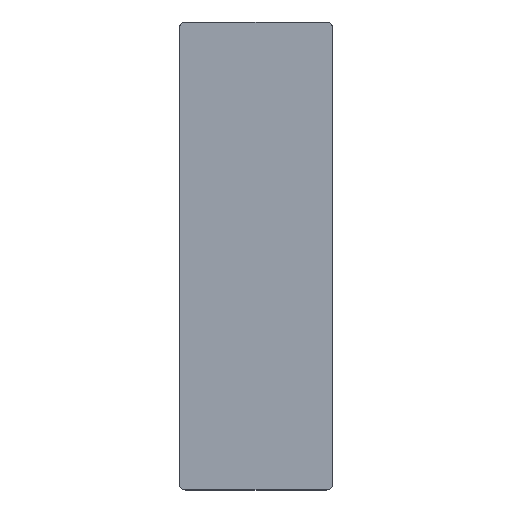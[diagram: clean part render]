
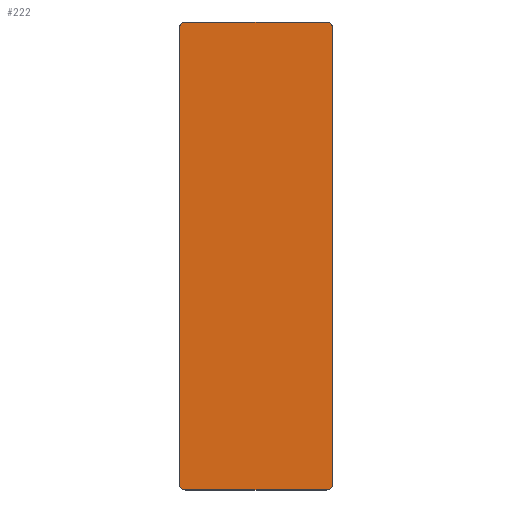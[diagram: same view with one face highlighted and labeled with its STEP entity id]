
A CAD part, top view. The second image highlights one B-rep face of the part: STEP entity #222.
In plain terms, the highlighted planar face has unit normal (0, 0, 1).
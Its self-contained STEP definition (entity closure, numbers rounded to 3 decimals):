
#126=AXIS2_PLACEMENT_3D('Circle Axis2P3D',#124,#125,$) ;
#146=AXIS2_PLACEMENT_3D('Plane Axis2P3D',#143,#144,#145) ;
#183=AXIS2_PLACEMENT_3D('Circle Axis2P3D',#181,#182,$) ;
#50=CARTESIAN_POINT('Vertex',(2423.66,1037.5,620.431)) ;
#53=CARTESIAN_POINT('Line Origine',(2423.66,0.,620.431)) ;
#57=CARTESIAN_POINT('Vertex',(2423.66,-1037.5,620.431)) ;
#121=CARTESIAN_POINT('Vertex',(2395.16,1066.,620.431)) ;
#124=CARTESIAN_POINT('Axis2P3D Location',(2395.16,1037.5,620.431)) ;
#143=CARTESIAN_POINT('Axis2P3D Location',(2453.66,0.,620.431)) ;
#148=CARTESIAN_POINT('Line Origine',(2073.978,-1066.,620.431)) ;
#152=CARTESIAN_POINT('Vertex',(2395.16,-1066.,620.431)) ;
#154=CARTESIAN_POINT('Vertex',(1752.796,-1066.,620.431)) ;
#158=CARTESIAN_POINT('Control Point',(2423.66,-1037.5,620.431)) ;
#159=CARTESIAN_POINT('Control Point',(2423.66,-1040.115,620.431)) ;
#160=CARTESIAN_POINT('Control Point',(2423.36,-1042.73,620.431)) ;
#161=CARTESIAN_POINT('Control Point',(2422.76,-1045.3,620.431)) ;
#162=CARTESIAN_POINT('Control Point',(2420.981,-1050.255,620.431)) ;
#163=CARTESIAN_POINT('Control Point',(2418.127,-1054.679,620.431)) ;
#164=CARTESIAN_POINT('Control Point',(2416.45,-1056.717,620.431)) ;
#165=CARTESIAN_POINT('Control Point',(2412.661,-1060.372,620.431)) ;
#166=CARTESIAN_POINT('Control Point',(2408.143,-1063.074,620.431)) ;
#167=CARTESIAN_POINT('Control Point',(2405.737,-1064.159,620.431)) ;
#168=CARTESIAN_POINT('Control Point',(2402.167,-1065.297,620.431)) ;
#169=CARTESIAN_POINT('Control Point',(2398.479,-1065.838,620.431)) ;
#170=CARTESIAN_POINT('Control Point',(2397.375,-1065.946,620.431)) ;
#171=CARTESIAN_POINT('Control Point',(2396.267,-1066.,620.431)) ;
#172=CARTESIAN_POINT('Control Point',(2395.16,-1066.,620.431)) ;
#174=CARTESIAN_POINT('Line Origine',(2073.978,1066.,620.431)) ;
#178=CARTESIAN_POINT('Vertex',(1752.796,1066.,620.431)) ;
#181=CARTESIAN_POINT('Axis2P3D Location',(1752.796,1037.5,620.431)) ;
#185=CARTESIAN_POINT('Vertex',(1724.296,1037.5,620.431)) ;
#188=CARTESIAN_POINT('Line Origine',(1724.296,0.,620.431)) ;
#192=CARTESIAN_POINT('Vertex',(1724.296,-1037.5,620.431)) ;
#196=CARTESIAN_POINT('Control Point',(1724.296,-1037.5,620.431)) ;
#197=CARTESIAN_POINT('Control Point',(1724.296,-1040.115,620.431)) ;
#198=CARTESIAN_POINT('Control Point',(1724.596,-1042.73,620.431)) ;
#199=CARTESIAN_POINT('Control Point',(1725.196,-1045.3,620.431)) ;
#200=CARTESIAN_POINT('Control Point',(1726.975,-1050.255,620.431)) ;
#201=CARTESIAN_POINT('Control Point',(1729.829,-1054.679,620.431)) ;
#202=CARTESIAN_POINT('Control Point',(1731.506,-1056.717,620.431)) ;
#203=CARTESIAN_POINT('Control Point',(1735.295,-1060.372,620.431)) ;
#204=CARTESIAN_POINT('Control Point',(1739.813,-1063.074,620.431)) ;
#205=CARTESIAN_POINT('Control Point',(1742.219,-1064.159,620.431)) ;
#206=CARTESIAN_POINT('Control Point',(1745.789,-1065.297,620.431)) ;
#207=CARTESIAN_POINT('Control Point',(1749.477,-1065.838,620.431)) ;
#208=CARTESIAN_POINT('Control Point',(1750.581,-1065.946,620.431)) ;
#209=CARTESIAN_POINT('Control Point',(1751.688,-1066.,620.431)) ;
#210=CARTESIAN_POINT('Control Point',(1752.796,-1066.,620.431)) ;
#54=DIRECTION('Vector Direction',(0.,-1.,0.)) ;
#125=DIRECTION('Axis2P3D Direction',(0.,0.,-1.)) ;
#144=DIRECTION('Axis2P3D Direction',(0.,0.,1.)) ;
#145=DIRECTION('Axis2P3D XDirection',(-0.,-1.,-0.)) ;
#149=DIRECTION('Vector Direction',(1.,0.,0.)) ;
#175=DIRECTION('Vector Direction',(-1.,0.,0.)) ;
#182=DIRECTION('Axis2P3D Direction',(0.,0.,1.)) ;
#189=DIRECTION('Vector Direction',(0.,-1.,0.)) ;
#55=VECTOR('Line Direction',#54,1.) ;
#150=VECTOR('Line Direction',#149,1.) ;
#176=VECTOR('Line Direction',#175,1.) ;
#190=VECTOR('Line Direction',#189,1.) ;
#213=ORIENTED_EDGE('',*,*,#156,.F.) ;
#214=ORIENTED_EDGE('',*,*,#173,.F.) ;
#215=ORIENTED_EDGE('',*,*,#59,.F.) ;
#216=ORIENTED_EDGE('',*,*,#128,.F.) ;
#217=ORIENTED_EDGE('',*,*,#180,.F.) ;
#218=ORIENTED_EDGE('',*,*,#187,.T.) ;
#219=ORIENTED_EDGE('',*,*,#194,.T.) ;
#220=ORIENTED_EDGE('',*,*,#211,.T.) ;
#222=ADVANCED_FACE('ASSY-20221017.1\\Bed Mattress1017.1\\paomo-0812.1\\\X2\51E04F554F53\X0\.2',(#221),#147,.T.) ;
#157=B_SPLINE_CURVE_WITH_KNOTS('',5,(#158,#159,#160,#161,#162,#163,#164,#165,#166,#167,#168,#169,#170,#171,#172),.UNSPECIFIED.,.F.,.U.,(6,3,3,3,6),(0.,18.529,37.057,55.586,63.434),.UNSPECIFIED.) ;
#195=B_SPLINE_CURVE_WITH_KNOTS('',5,(#196,#197,#198,#199,#200,#201,#202,#203,#204,#205,#206,#207,#208,#209,#210),.UNSPECIFIED.,.F.,.U.,(6,3,3,3,6),(0.,18.529,37.057,55.586,63.434),.UNSPECIFIED.) ;
#127=CIRCLE('generated circle',#126,28.5) ;
#184=CIRCLE('generated circle',#183,28.5) ;
#59=EDGE_CURVE('',#51,#58,#56,.T.) ;
#128=EDGE_CURVE('',#122,#51,#127,.T.) ;
#156=EDGE_CURVE('',#153,#155,#151,.F.) ;
#173=EDGE_CURVE('',#58,#153,#157,.T.) ;
#180=EDGE_CURVE('',#179,#122,#177,.F.) ;
#187=EDGE_CURVE('',#179,#186,#184,.T.) ;
#194=EDGE_CURVE('',#186,#193,#191,.T.) ;
#211=EDGE_CURVE('',#193,#155,#195,.T.) ;
#212=EDGE_LOOP('',(#213,#214,#215,#216,#217,#218,#219,#220)) ;
#221=FACE_OUTER_BOUND('',#212,.T.) ;
#56=LINE('Line',#53,#55) ;
#151=LINE('Line',#148,#150) ;
#177=LINE('Line',#174,#176) ;
#191=LINE('Line',#188,#190) ;
#147=PLANE('Plane',#146) ;
#51=VERTEX_POINT('',#50) ;
#58=VERTEX_POINT('',#57) ;
#122=VERTEX_POINT('',#121) ;
#153=VERTEX_POINT('',#152) ;
#155=VERTEX_POINT('',#154) ;
#179=VERTEX_POINT('',#178) ;
#186=VERTEX_POINT('',#185) ;
#193=VERTEX_POINT('',#192) ;
